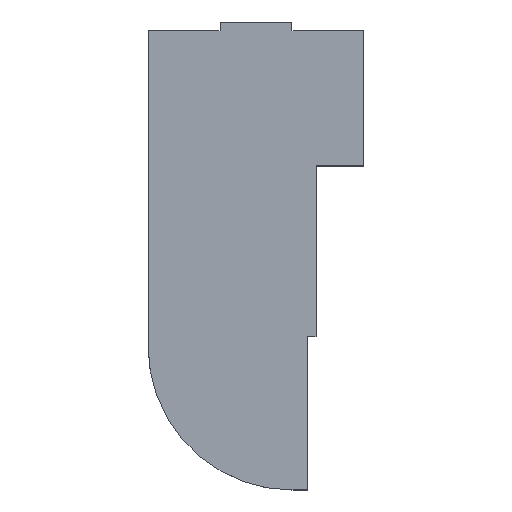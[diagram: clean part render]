
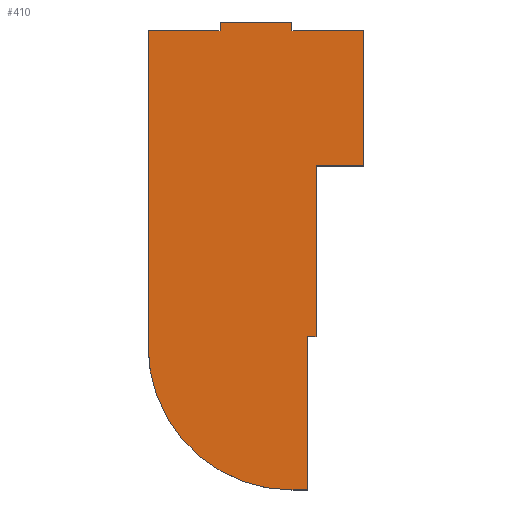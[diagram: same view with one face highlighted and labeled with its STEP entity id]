
A CAD part, top view. The second image highlights one B-rep face of the part: STEP entity #410.
In plain terms, the highlighted planar face has unit normal (0, 0, 1).
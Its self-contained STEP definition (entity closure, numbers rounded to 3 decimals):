
#4 = VERTEX_POINT ( 'NONE', #235 ) ;
#7 = ORIENTED_EDGE ( 'NONE', *, *, #172, .T. ) ;
#9 = LINE ( 'NONE', #237, #16 ) ;
#14 = VERTEX_POINT ( 'NONE', #381 ) ;
#16 = VECTOR ( 'NONE', #124, 1000. ) ;
#18 = PLANE ( 'NONE',  #339 ) ;
#21 = CARTESIAN_POINT ( 'NONE',  ( 141.356, -416.56, 10. ) ) ;
#30 = DIRECTION ( 'NONE',  ( -1., 0., 0. ) ) ;
#33 = VECTOR ( 'NONE', #134, 1000. ) ;
#42 = ORIENTED_EDGE ( 'NONE', *, *, #48, .T. ) ;
#48 = EDGE_CURVE ( 'NONE', #234, #393, #176, .T. ) ;
#55 = DIRECTION ( 'NONE',  ( 0., 0., -1. ) ) ;
#59 = CARTESIAN_POINT ( 'NONE',  ( 141.356, 33.44, 10. ) ) ;
#66 = LINE ( 'NONE', #444, #407 ) ;
#68 = EDGE_CURVE ( 'NONE', #151, #84, #374, .T. ) ;
#73 = CIRCLE ( 'NONE', #299, 200. ) ;
#77 = CARTESIAN_POINT ( 'NONE',  ( 241.356, -166.56, 10. ) ) ;
#84 = VERTEX_POINT ( 'NONE', #468 ) ;
#85 = EDGE_CURVE ( 'NONE', #157, #316, #9, .T. ) ;
#88 = LINE ( 'NONE', #190, #148 ) ;
#99 = LINE ( 'NONE', #493, #100 ) ;
#100 = VECTOR ( 'NONE', #496, 1000. ) ;
#103 = VECTOR ( 'NONE', #255, 1000. ) ;
#113 = VECTOR ( 'NONE', #330, 1000. ) ;
#124 = DIRECTION ( 'NONE',  ( 0., 1., 0. ) ) ;
#130 = ORIENTED_EDGE ( 'NONE', *, *, #420, .T. ) ;
#131 = LINE ( 'NONE', #137, #33 ) ;
#134 = DIRECTION ( 'NONE',  ( 1., 0., 0. ) ) ;
#137 = CARTESIAN_POINT ( 'NONE',  ( 141.356, -616.56, 10. ) ) ;
#138 = LINE ( 'NONE', #251, #277 ) ;
#147 = CARTESIAN_POINT ( 'NONE',  ( 41.356, 33.44, 10. ) ) ;
#148 = VECTOR ( 'NONE', #312, 1000. ) ;
#150 = EDGE_CURVE ( 'NONE', #202, #234, #88, .T. ) ;
#151 = VERTEX_POINT ( 'NONE', #77 ) ;
#157 = VERTEX_POINT ( 'NONE', #266 ) ;
#165 = VECTOR ( 'NONE', #240, 1000. ) ;
#172 = EDGE_CURVE ( 'NONE', #191, #157, #423, .T. ) ;
#176 = LINE ( 'NONE', #297, #103 ) ;
#178 = DIRECTION ( 'NONE',  ( -1., 0., 0. ) ) ;
#181 = CARTESIAN_POINT ( 'NONE',  ( 141.356, -616.56, 10. ) ) ;
#188 = ORIENTED_EDGE ( 'NONE', *, *, #85, .T. ) ;
#190 = CARTESIAN_POINT ( 'NONE',  ( 41.356, 33.44, 10. ) ) ;
#191 = VERTEX_POINT ( 'NONE', #379 ) ;
#202 = VERTEX_POINT ( 'NONE', #417 ) ;
#207 = CARTESIAN_POINT ( 'NONE',  ( 141.356, -416.56, 10. ) ) ;
#228 = DIRECTION ( 'NONE',  ( 1., 0., 0. ) ) ;
#230 = ORIENTED_EDGE ( 'NONE', *, *, #245, .T. ) ;
#234 = VERTEX_POINT ( 'NONE', #147 ) ;
#235 = CARTESIAN_POINT ( 'NONE',  ( 141.356, 21.44, 10. ) ) ;
#237 = CARTESIAN_POINT ( 'NONE',  ( 174.7, -166.56, 10. ) ) ;
#240 = DIRECTION ( 'NONE',  ( 0., 1., 0. ) ) ;
#244 = FACE_OUTER_BOUND ( 'NONE', #435, .T. ) ;
#245 = EDGE_CURVE ( 'NONE', #393, #14, #314, .T. ) ;
#248 = ORIENTED_EDGE ( 'NONE', *, *, #424, .T. ) ;
#251 = CARTESIAN_POINT ( 'NONE',  ( 141.356, 21.44, 10. ) ) ;
#253 = VECTOR ( 'NONE', #335, 1000. ) ;
#255 = DIRECTION ( 'NONE',  ( 0., -1., 0. ) ) ;
#266 = CARTESIAN_POINT ( 'NONE',  ( 174.7, -403.864, 10. ) ) ;
#271 = ORIENTED_EDGE ( 'NONE', *, *, #150, .T. ) ;
#275 = VERTEX_POINT ( 'NONE', #181 ) ;
#277 = VECTOR ( 'NONE', #178, 1000. ) ;
#297 = CARTESIAN_POINT ( 'NONE',  ( 41.356, 33.44, 10. ) ) ;
#299 = AXIS2_PLACEMENT_3D ( 'NONE', #21, #413, #30 ) ;
#302 = EDGE_CURVE ( 'NONE', #84, #4, #138, .T. ) ;
#304 = EDGE_CURVE ( 'NONE', #14, #442, #66, .T. ) ;
#312 = DIRECTION ( 'NONE',  ( -1., 0., 0. ) ) ;
#314 = LINE ( 'NONE', #464, #377 ) ;
#316 = VERTEX_POINT ( 'NONE', #405 ) ;
#318 = ORIENTED_EDGE ( 'NONE', *, *, #68, .T. ) ;
#319 = ORIENTED_EDGE ( 'NONE', *, *, #302, .T. ) ;
#321 = EDGE_CURVE ( 'NONE', #442, #275, #73, .T. ) ;
#327 = LINE ( 'NONE', #59, #253 ) ;
#329 = ORIENTED_EDGE ( 'NONE', *, *, #304, .T. ) ;
#330 = DIRECTION ( 'NONE',  ( 0., 1., 0. ) ) ;
#335 = DIRECTION ( 'NONE',  ( 0., 1., 0. ) ) ;
#339 = AXIS2_PLACEMENT_3D ( 'NONE', #207, #55, #483 ) ;
#350 = CARTESIAN_POINT ( 'NONE',  ( 174.7, -403.864, 10. ) ) ;
#353 = EDGE_CURVE ( 'NONE', #316, #151, #99, .T. ) ;
#362 = CARTESIAN_POINT ( 'NONE',  ( -58.644, -416.56, 10. ) ) ;
#371 = CARTESIAN_POINT ( 'NONE',  ( 241.356, -166.56, 10. ) ) ;
#374 = LINE ( 'NONE', #371, #165 ) ;
#377 = VECTOR ( 'NONE', #460, 1000. ) ;
#379 = CARTESIAN_POINT ( 'NONE',  ( 162.7, -403.864, 10. ) ) ;
#381 = CARTESIAN_POINT ( 'NONE',  ( -58.644, 21.44, 10. ) ) ;
#386 = ORIENTED_EDGE ( 'NONE', *, *, #321, .T. ) ;
#393 = VERTEX_POINT ( 'NONE', #399 ) ;
#399 = CARTESIAN_POINT ( 'NONE',  ( 41.356, 21.44, 10. ) ) ;
#405 = CARTESIAN_POINT ( 'NONE',  ( 174.7, -166.56, 10. ) ) ;
#406 = EDGE_CURVE ( 'NONE', #4, #202, #327, .T. ) ;
#407 = VECTOR ( 'NONE', #486, 1000. ) ;
#410 = ADVANCED_FACE ( 'NONE', ( #244 ), #18, .F. ) ;
#413 = DIRECTION ( 'NONE',  ( 0., 0., 1. ) ) ;
#417 = CARTESIAN_POINT ( 'NONE',  ( 141.356, 33.44, 10. ) ) ;
#420 = EDGE_CURVE ( 'NONE', #474, #191, #476, .T. ) ;
#421 = VECTOR ( 'NONE', #228, 1000. ) ;
#423 = LINE ( 'NONE', #350, #421 ) ;
#424 = EDGE_CURVE ( 'NONE', #275, #474, #131, .T. ) ;
#427 = ORIENTED_EDGE ( 'NONE', *, *, #406, .T. ) ;
#435 = EDGE_LOOP ( 'NONE', ( #319, #427, #271, #42, #230, #329, #386, #248, #130, #7, #188, #482, #318 ) ) ;
#439 = CARTESIAN_POINT ( 'NONE',  ( 162.7, -616.56, 10. ) ) ;
#441 = CARTESIAN_POINT ( 'NONE',  ( 162.7, -403.864, 10. ) ) ;
#442 = VERTEX_POINT ( 'NONE', #362 ) ;
#444 = CARTESIAN_POINT ( 'NONE',  ( -58.644, 21.44, 10. ) ) ;
#460 = DIRECTION ( 'NONE',  ( -1., 0., 0. ) ) ;
#464 = CARTESIAN_POINT ( 'NONE',  ( 41.356, 21.44, 10. ) ) ;
#468 = CARTESIAN_POINT ( 'NONE',  ( 241.356, 21.44, 10. ) ) ;
#474 = VERTEX_POINT ( 'NONE', #439 ) ;
#476 = LINE ( 'NONE', #441, #113 ) ;
#482 = ORIENTED_EDGE ( 'NONE', *, *, #353, .T. ) ;
#483 = DIRECTION ( 'NONE',  ( -1., 0., 0. ) ) ;
#486 = DIRECTION ( 'NONE',  ( 0., -1., 0. ) ) ;
#493 = CARTESIAN_POINT ( 'NONE',  ( 174.7, -166.56, 10. ) ) ;
#496 = DIRECTION ( 'NONE',  ( 1., 0., 0. ) ) ;
